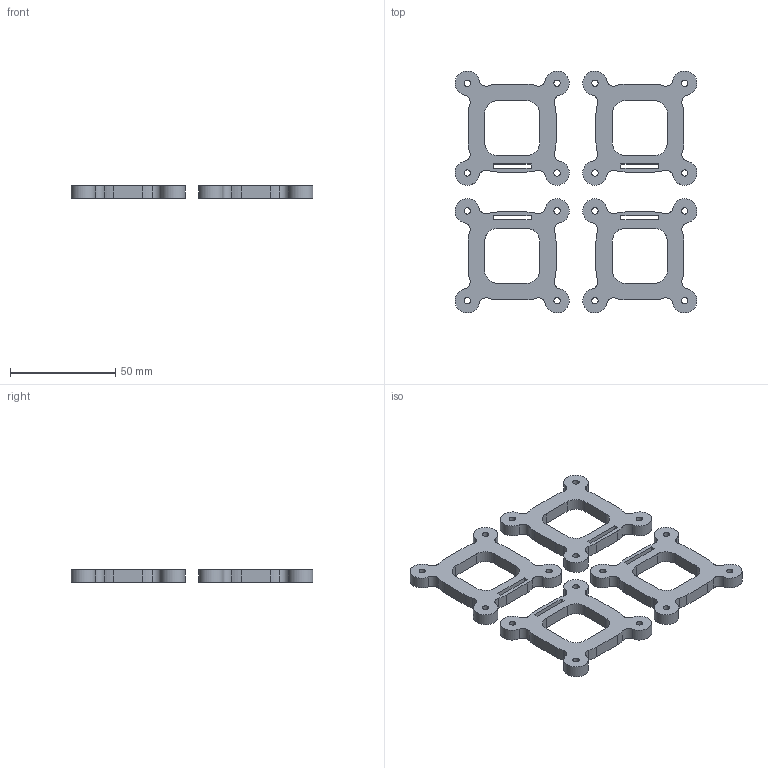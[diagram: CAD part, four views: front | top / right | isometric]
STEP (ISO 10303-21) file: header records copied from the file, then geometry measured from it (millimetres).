
FILE_DESCRIPTION(/* description */ (''),/* implementation_level */ '2;1');
FILE_NAME(/* name */ '240803-DIYUTM-BaseCaps',/* time_stamp */ '2024-08-03T10:06:32+02:00',/* author */ (''),/* organization */ (''),/* preprocessor_version */ 'ST-DEVELOPER v16.5',/* originating_system */ 'Rhino 7.37',/* authorisation */ '');
FILE_SCHEMA (('CONFIG_CONTROL_DESIGN'));
Length unit declared in the file: millimetre
Products named in the file (1): Document
Bounding box: 114.67 x 114.67 x 5.7 mm (x, y, z)
Volume: 29814 mm3; surface area: 20203.4 mm2
Topology: 4 solids, 4 shells, 232 faces, 624 edges, 416 vertices
Faces by surface type: cylinder 160, plane 72
Entity records: 6844 total; most frequent: CARTESIAN_POINT 2882, ORIENTED_EDGE 1248, EDGE_CURVE 624, VERTEX_POINT 416, EDGE_LOOP 296, DIRECTION 236, AXIS2_PLACEMENT_3D 234, ADVANCED_FACE 232
